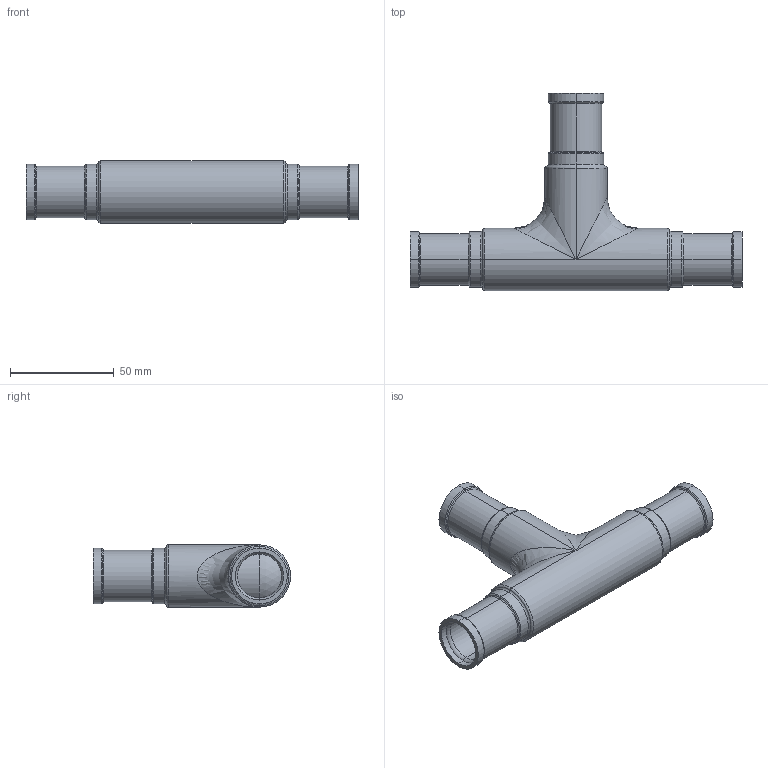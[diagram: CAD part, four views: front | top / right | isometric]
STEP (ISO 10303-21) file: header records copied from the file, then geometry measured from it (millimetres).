
FILE_DESCRIPTION (( 'STEP AP214' ), '1' );
FILE_NAME ('115.301.002.STEP', '2021-07-21T11:45:25', ( '' ), ( '' ), 'SwSTEP 2.0', 'SolidWorks 2018', '' );
FILE_SCHEMA (( 'AUTOMOTIVE_DESIGN' ));
Length unit declared in the file: millimetre
Products named in the file (1): 115.301.002
Bounding box: 160 x 95 x 30 mm (x, y, z)
Volume: 36712.5 mm3; surface area: 40230.4 mm2
Topology: 1 solids, 1 shells, 113 faces, 229 edges, 116 vertices
Faces by surface type: torus 54, cylinder 49, bspline 4, plane 3, sphere 3
Entity records: 3587 total; most frequent: CARTESIAN_POINT 1186, DIRECTION 592, ORIENTED_EDGE 444, AXIS2_PLACEMENT_3D 272, EDGE_CURVE 222, CIRCLE 162, EDGE_LOOP 116, VERTEX_POINT 114
